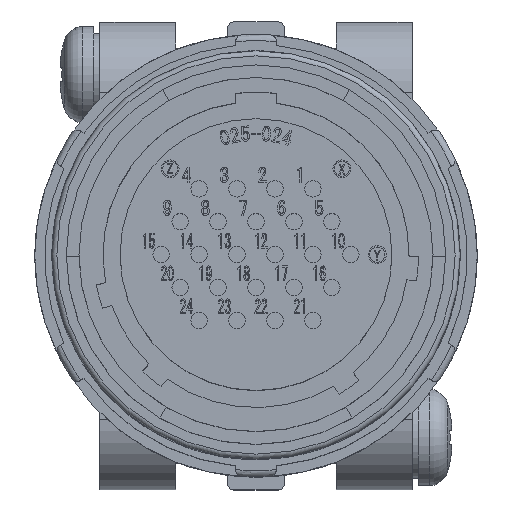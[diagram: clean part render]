
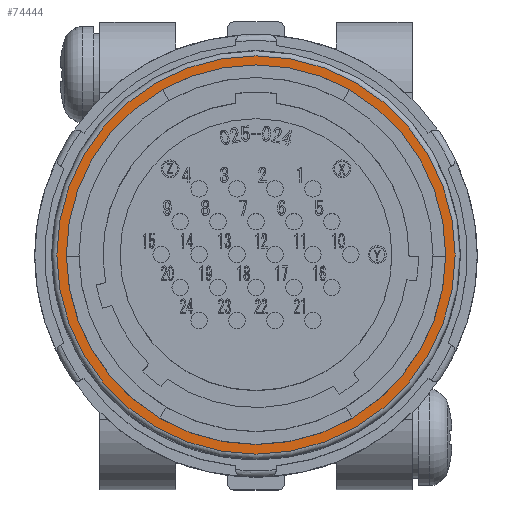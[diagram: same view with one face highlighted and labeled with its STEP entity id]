
A CAD part, top view. The second image highlights one B-rep face of the part: STEP entity #74444.
In plain terms, the highlighted planar face has unit normal (0, 0, 1).
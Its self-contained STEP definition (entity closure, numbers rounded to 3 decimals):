
#4948 = DIRECTION ( 'NONE',  ( 0., 0., 1. ) ) ;
#9723 = DIRECTION ( 'NONE',  ( 0., 0., -1. ) ) ;
#11039 = PLANE ( 'NONE',  #51323 ) ;
#12464 = DIRECTION ( 'NONE',  ( 1., 0., 0. ) ) ;
#17886 = DIRECTION ( 'NONE',  ( -1., 0., 0. ) ) ;
#17974 = CIRCLE ( 'NONE', #41142, 15.75 ) ;
#18259 = DIRECTION ( 'NONE',  ( -1., 0., 0. ) ) ;
#21410 = FACE_OUTER_BOUND ( 'NONE', #33161, .T. ) ;
#28596 = VERTEX_POINT ( 'NONE', #84035 ) ;
#31119 = AXIS2_PLACEMENT_3D ( 'NONE', #74794, #9723, #17886 ) ;
#33161 = EDGE_LOOP ( 'NONE', ( #53442 ) ) ;
#36505 = ORIENTED_EDGE ( 'NONE', *, *, #44971, .T. ) ;
#41142 = AXIS2_PLACEMENT_3D ( 'NONE', #90984, #4948, #12464 ) ;
#44894 = CIRCLE ( 'NONE', #31119, 13.98 ) ;
#44971 = EDGE_CURVE ( 'NONE', #89283, #89283, #44894, .T. ) ;
#45037 = FACE_BOUND ( 'NONE', #54801, .T. ) ;
#46243 = DIRECTION ( 'NONE',  ( 0., 0., -1. ) ) ;
#51323 = AXIS2_PLACEMENT_3D ( 'NONE', #54120, #46243, #18259 ) ;
#53442 = ORIENTED_EDGE ( 'NONE', *, *, #74990, .T. ) ;
#54120 = CARTESIAN_POINT ( 'NONE',  ( 0., 14.15, -19.2 ) ) ;
#54801 = EDGE_LOOP ( 'NONE', ( #36505 ) ) ;
#74444 = ADVANCED_FACE ( 'NONE', ( #45037, #21410 ), #11039, .F. ) ;
#74794 = CARTESIAN_POINT ( 'NONE',  ( 0., 0., -19.2 ) ) ;
#74990 = EDGE_CURVE ( 'NONE', #28596, #28596, #17974, .T. ) ;
#83086 = CARTESIAN_POINT ( 'NONE',  ( -13.98, 0., -19.2 ) ) ;
#84035 = CARTESIAN_POINT ( 'NONE',  ( 15.75, 0., -19.2 ) ) ;
#89283 = VERTEX_POINT ( 'NONE', #83086 ) ;
#90984 = CARTESIAN_POINT ( 'NONE',  ( 0., 0., -19.2 ) ) ;
